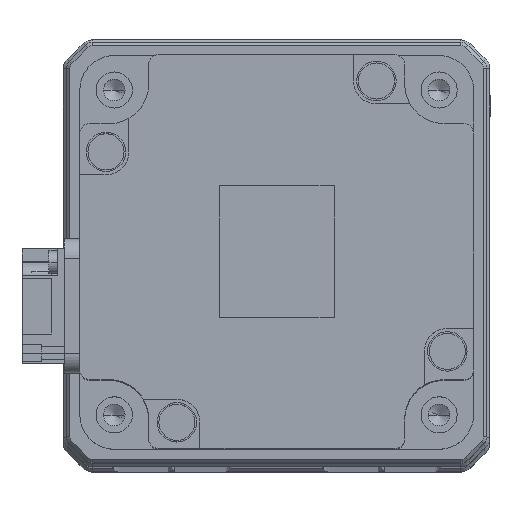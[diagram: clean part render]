
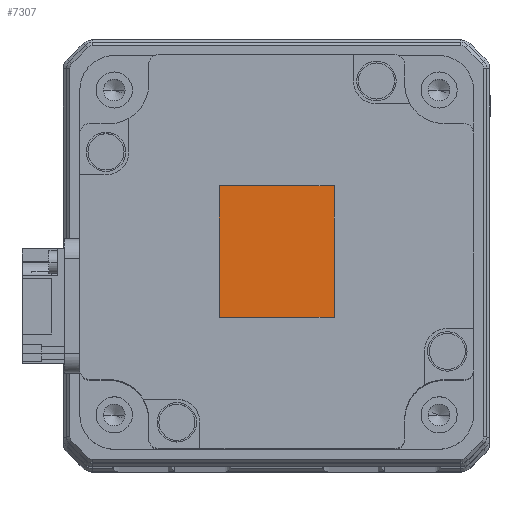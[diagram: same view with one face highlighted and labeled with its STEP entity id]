
A CAD part, top view. The second image highlights one B-rep face of the part: STEP entity #7307.
In plain terms, the highlighted planar face has unit normal (0, 0, 1) as drawn and (0, 0, -1) by its records, which use the part's own axes.
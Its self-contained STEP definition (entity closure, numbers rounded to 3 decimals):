
#218 = LINE ( 'NONE', #29813, #12453 ) ;
#1048 = VECTOR ( 'NONE', #33545, 1000. ) ;
#1264 = VECTOR ( 'NONE', #21333, 1000. ) ;
#1847 = CARTESIAN_POINT ( 'NONE',  ( 10., -8.75, -80.1 ) ) ;
#3230 = CARTESIAN_POINT ( 'NONE',  ( -10., 8.75, -80.1 ) ) ;
#4126 = CARTESIAN_POINT ( 'NONE',  ( -10., -8.75, -80.1 ) ) ;
#5863 = DIRECTION ( 'NONE',  ( 0., 0., -1. ) ) ;
#7307 = ADVANCED_FACE ( 'NONE', ( #25479 ), #13685, .T. ) ;
#7908 = CARTESIAN_POINT ( 'NONE',  ( 10., -8.75, -80.1 ) ) ;
#10000 = VERTEX_POINT ( 'NONE', #25711 ) ;
#12453 = VECTOR ( 'NONE', #16950, 1000. ) ;
#12776 = VECTOR ( 'NONE', #13008, 1000. ) ;
#13008 = DIRECTION ( 'NONE',  ( -1., 0., 0. ) ) ;
#13685 = PLANE ( 'NONE',  #21811 ) ;
#14280 = LINE ( 'NONE', #3230, #1264 ) ;
#14281 = EDGE_CURVE ( 'NONE', #17482, #10000, #14280, .T. ) ;
#14678 = ORIENTED_EDGE ( 'NONE', *, *, #14281, .T. ) ;
#16491 = ORIENTED_EDGE ( 'NONE', *, *, #30603, .T. ) ;
#16950 = DIRECTION ( 'NONE',  ( 0., -1., 0. ) ) ;
#17482 = VERTEX_POINT ( 'NONE', #4126 ) ;
#19610 = LINE ( 'NONE', #7908, #12776 ) ;
#21333 = DIRECTION ( 'NONE',  ( 0., 1., 0. ) ) ;
#21504 = EDGE_CURVE ( 'NONE', #25328, #17482, #19610, .T. ) ;
#21717 = CARTESIAN_POINT ( 'NONE',  ( 10., 8.75, -80.1 ) ) ;
#21811 = AXIS2_PLACEMENT_3D ( 'NONE', #26554, #5863, #31777 ) ;
#21957 = EDGE_LOOP ( 'NONE', ( #14678, #16491, #32550, #24578 ) ) ;
#23401 = EDGE_CURVE ( 'NONE', #28322, #25328, #218, .T. ) ;
#24578 = ORIENTED_EDGE ( 'NONE', *, *, #21504, .T. ) ;
#25328 = VERTEX_POINT ( 'NONE', #1847 ) ;
#25479 = FACE_OUTER_BOUND ( 'NONE', #21957, .T. ) ;
#25711 = CARTESIAN_POINT ( 'NONE',  ( -10., 8.75, -80.1 ) ) ;
#26554 = CARTESIAN_POINT ( 'NONE',  ( 10., -8.75, -80.1 ) ) ;
#27835 = LINE ( 'NONE', #30938, #1048 ) ;
#28322 = VERTEX_POINT ( 'NONE', #21717 ) ;
#29813 = CARTESIAN_POINT ( 'NONE',  ( 10., 8.75, -80.1 ) ) ;
#30603 = EDGE_CURVE ( 'NONE', #10000, #28322, #27835, .T. ) ;
#30938 = CARTESIAN_POINT ( 'NONE',  ( 10., 8.75, -80.1 ) ) ;
#31777 = DIRECTION ( 'NONE',  ( -1., 0., 0. ) ) ;
#32550 = ORIENTED_EDGE ( 'NONE', *, *, #23401, .T. ) ;
#33545 = DIRECTION ( 'NONE',  ( 1., 0., 0. ) ) ;
